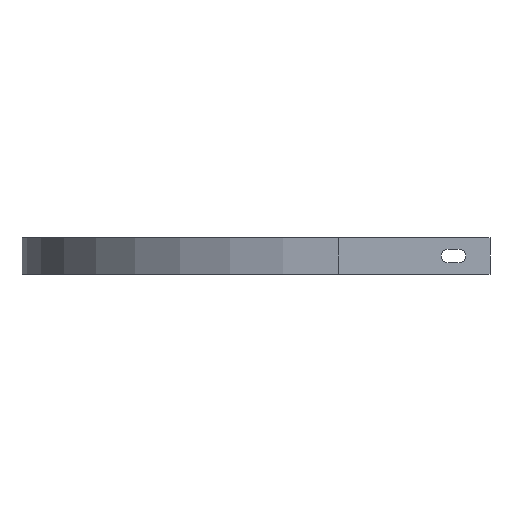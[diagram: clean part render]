
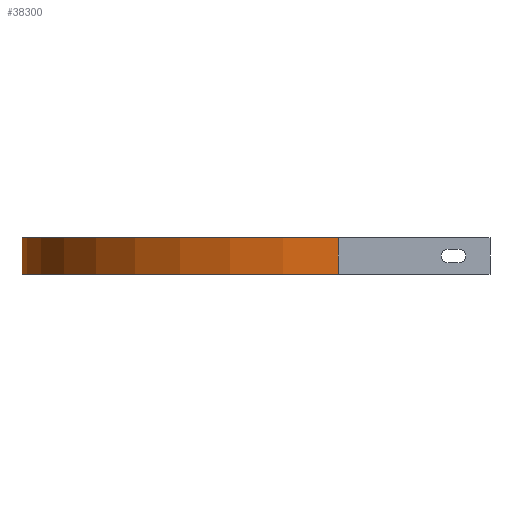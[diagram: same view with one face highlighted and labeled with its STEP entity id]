
A CAD part, left-side view. The second image highlights one B-rep face of the part: STEP entity #38300.
In plain terms, the highlighted cylindrical face has radius 260 mm (diameter 520 mm), a partial arc.
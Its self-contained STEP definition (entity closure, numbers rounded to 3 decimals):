
#36250=CARTESIAN_POINT('',(-260.,0.,-30.));
#36260=VERTEX_POINT('',#36250);
#36650=CARTESIAN_POINT('',(0.,260.,-30.));
#36660=VERTEX_POINT('',#36650);
#36690=CARTESIAN_POINT('',(0.,0.,-30.));
#36700=DIRECTION('',(0.,0.,1.));
#36710=DIRECTION('',(1.,0.,0.));
#36720=AXIS2_PLACEMENT_3D('',#36690,#36700,#36710);
#36730=CIRCLE('',#36720,260.);
#36740=EDGE_CURVE('',#36660,#36260,#36730,.T.);
#36840=CARTESIAN_POINT('',(0.,0.,0.));
#36850=DIRECTION('',(0.,0.,1.));
#36860=DIRECTION('',(1.,0.,0.));
#36870=AXIS2_PLACEMENT_3D('',#36840,#36850,#36860);
#36880=CIRCLE('',#36870,260.);
#36890=CARTESIAN_POINT('',(0.,260.,0.));
#36900=VERTEX_POINT('',#36890);
#36910=CARTESIAN_POINT('',(-260.,0.,0.));
#36920=VERTEX_POINT('',#36910);
#36930=EDGE_CURVE('',#36900,#36920,#36880,.T.);
#37670=CARTESIAN_POINT('',(0.,260.,0.));
#37680=DIRECTION('',(0.,0.,-1.));
#37690=VECTOR('',#37680,1.);
#37700=LINE('',#37670,#37690);
#37710=EDGE_CURVE('',#36900,#36660,#37700,.T.);
#38140=CARTESIAN_POINT('',(0.,0.,0.));
#38150=DIRECTION('',(0.,0.,1.));
#38160=DIRECTION('',(1.,0.,0.));
#38170=AXIS2_PLACEMENT_3D('',#38140,#38150,#38160);
#38180=CYLINDRICAL_SURFACE('',#38170,260.);
#38190=ORIENTED_EDGE('',*,*,#36930,.F.);
#38200=CARTESIAN_POINT('',(-260.,0.,0.));
#38210=DIRECTION('',(0.,0.,-1.));
#38220=VECTOR('',#38210,1.);
#38230=LINE('',#38200,#38220);
#38240=EDGE_CURVE('',#36920,#36260,#38230,.T.);
#38250=ORIENTED_EDGE('',*,*,#38240,.F.);
#38260=ORIENTED_EDGE('',*,*,#36740,.T.);
#38270=ORIENTED_EDGE('',*,*,#37710,.T.);
#38280=EDGE_LOOP('',(#38270,#38260,#38250,#38190));
#38290=FACE_OUTER_BOUND('',#38280,.T.);
#38300=ADVANCED_FACE('',(#38290),#38180,.T.);
